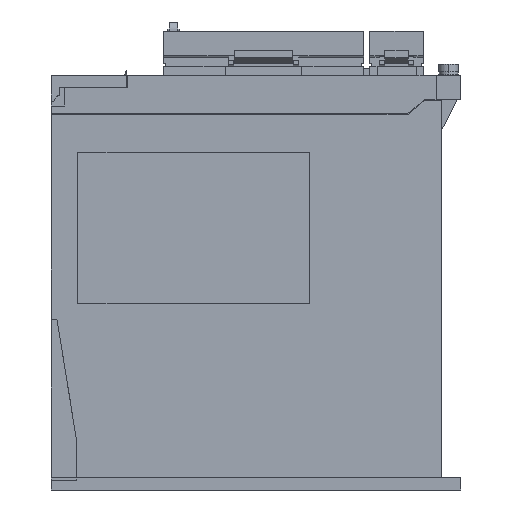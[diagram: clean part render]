
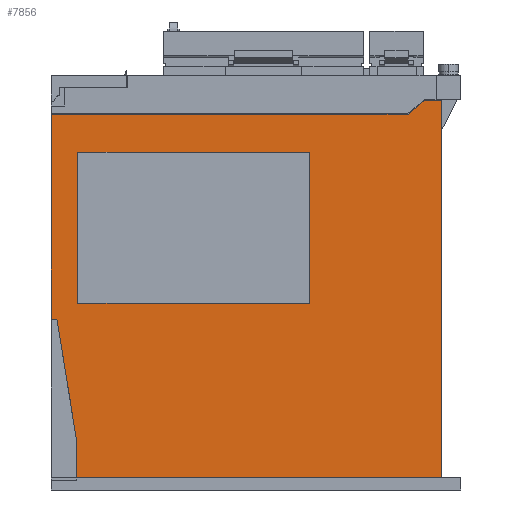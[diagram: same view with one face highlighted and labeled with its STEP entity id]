
A CAD part, left-side view. The second image highlights one B-rep face of the part: STEP entity #7856.
In plain terms, the highlighted planar face has unit normal (-1, 0, 0).
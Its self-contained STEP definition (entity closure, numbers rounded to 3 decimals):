
#5267 = VERTEX_POINT ( 'NONE', #27857 ) ;
#5269 = EDGE_CURVE ( 'NONE', #5267, #5270, #27856, .T. ) ;
#5270 = VERTEX_POINT ( 'NONE', #27852 ) ;
#5509 = VERTEX_POINT ( 'NONE', #28271 ) ;
#5511 = EDGE_CURVE ( 'NONE', #5509, #5512, #28270, .T. ) ;
#5512 = VERTEX_POINT ( 'NONE', #28266 ) ;
#5764 = VERTEX_POINT ( 'NONE', #28668 ) ;
#5796 = EDGE_CURVE ( 'NONE', #5764, #5883, #28746, .T. ) ;
#5883 = VERTEX_POINT ( 'NONE', #28911 ) ;
#7845 = VERTEX_POINT ( 'NONE', #32242 ) ;
#7846 = ORIENTED_EDGE ( 'NONE', *, *, #7847, .F. ) ;
#7847 = EDGE_CURVE ( 'NONE', #7848, #7845, #32241, .T. ) ;
#7848 = VERTEX_POINT ( 'NONE', #32302 ) ;
#7856 = ADVANCED_FACE ( 'NONE', ( #32292, #32291 ), #32290, .F. ) ;
#7857 = EDGE_LOOP ( 'NONE', ( #7858, #7862, #7920, #7923 ) ) ;
#7858 = ORIENTED_EDGE ( 'NONE', *, *, #7859, .F. ) ;
#7859 = EDGE_CURVE ( 'NONE', #7860, #7861, #32284, .T. ) ;
#7860 = VERTEX_POINT ( 'NONE', #32280 ) ;
#7861 = VERTEX_POINT ( 'NONE', #32279 ) ;
#7862 = ORIENTED_EDGE ( 'NONE', *, *, #7919, .F. ) ;
#7863 = VERTEX_POINT ( 'NONE', #32278 ) ;
#7907 = ORIENTED_EDGE ( 'NONE', *, *, #7908, .F. ) ;
#7908 = EDGE_CURVE ( 'NONE', #5764, #7848, #32344, .T. ) ;
#7909 = ORIENTED_EDGE ( 'NONE', *, *, #5796, .T. ) ;
#7910 = ORIENTED_EDGE ( 'NONE', *, *, #7911, .T. ) ;
#7911 = EDGE_CURVE ( 'NONE', #5883, #5512, #32340, .T. ) ;
#7912 = ORIENTED_EDGE ( 'NONE', *, *, #5511, .F. ) ;
#7913 = ORIENTED_EDGE ( 'NONE', *, *, #7914, .T. ) ;
#7914 = EDGE_CURVE ( 'NONE', #5509, #7915, #32397, .T. ) ;
#7915 = VERTEX_POINT ( 'NONE', #32393 ) ;
#7916 = ORIENTED_EDGE ( 'NONE', *, *, #7917, .T. ) ;
#7917 = EDGE_CURVE ( 'NONE', #7915, #5270, #32392, .T. ) ;
#7919 = EDGE_CURVE ( 'NONE', #7863, #7860, #32382, .T. ) ;
#7920 = ORIENTED_EDGE ( 'NONE', *, *, #7921, .F. ) ;
#7921 = EDGE_CURVE ( 'NONE', #7922, #7863, #32378, .T. ) ;
#7922 = VERTEX_POINT ( 'NONE', #32374 ) ;
#7923 = ORIENTED_EDGE ( 'NONE', *, *, #7924, .F. ) ;
#7924 = EDGE_CURVE ( 'NONE', #7861, #7922, #32373, .T. ) ;
#7925 = EDGE_LOOP ( 'NONE', ( #7926, #7927, #7846, #7907, #7909, #7910, #7912, #7913, #7916 ) ) ;
#7926 = ORIENTED_EDGE ( 'NONE', *, *, #5269, .F. ) ;
#7927 = ORIENTED_EDGE ( 'NONE', *, *, #7928, .F. ) ;
#7928 = EDGE_CURVE ( 'NONE', #7845, #5267, #32369, .T. ) ;
#27852 = CARTESIAN_POINT ( 'NONE',  ( -5., -155., 5.2 ) ) ;
#27853 = DIRECTION ( 'NONE',  ( 0., 0., -1. ) ) ;
#27854 = VECTOR ( 'NONE', #27853, 1000. ) ;
#27855 = CARTESIAN_POINT ( 'NONE',  ( -5., -155., 318.924 ) ) ;
#27856 = LINE ( 'NONE', #27855, #27854 ) ;
#27857 = CARTESIAN_POINT ( 'NONE',  ( -5., -155., 159.8 ) ) ;
#28266 = CARTESIAN_POINT ( 'NONE',  ( -5., 2.577, 70. ) ) ;
#28267 = DIRECTION ( 'NONE',  ( 0., 0.159, 0.987 ) ) ;
#28268 = VECTOR ( 'NONE', #28267, 1000. ) ;
#28269 = CARTESIAN_POINT ( 'NONE',  ( -5., -5.5, 20. ) ) ;
#28270 = LINE ( 'NONE', #28269, #28268 ) ;
#28271 = CARTESIAN_POINT ( 'NONE',  ( -5., -5.5, 20. ) ) ;
#28668 = CARTESIAN_POINT ( 'NONE',  ( -5., 5., 154. ) ) ;
#28743 = DIRECTION ( 'NONE',  ( 0., 0., -1. ) ) ;
#28744 = VECTOR ( 'NONE', #28743, 1000. ) ;
#28745 = CARTESIAN_POINT ( 'NONE',  ( -5., 5., 318.924 ) ) ;
#28746 = LINE ( 'NONE', #28745, #28744 ) ;
#28911 = CARTESIAN_POINT ( 'NONE',  ( -5., 5., 70. ) ) ;
#32241 = LINE ( 'NONE', #32305, #32304 ) ;
#32242 = CARTESIAN_POINT ( 'NONE',  ( -5., -148., 159.8 ) ) ;
#32278 = CARTESIAN_POINT ( 'NONE',  ( -5., -6., 138.5 ) ) ;
#32279 = CARTESIAN_POINT ( 'NONE',  ( -5., -101., 76.5 ) ) ;
#32280 = CARTESIAN_POINT ( 'NONE',  ( -5., -6., 76.5 ) ) ;
#32281 = DIRECTION ( 'NONE',  ( 0., -1., 0. ) ) ;
#32282 = VECTOR ( 'NONE', #32281, 1000. ) ;
#32283 = CARTESIAN_POINT ( 'NONE',  ( -5., -6., 76.5 ) ) ;
#32284 = LINE ( 'NONE', #32283, #32282 ) ;
#32286 = DIRECTION ( 'NONE',  ( 0., 1., 0. ) ) ;
#32287 = DIRECTION ( 'NONE',  ( 1., 0., 0. ) ) ;
#32288 = CARTESIAN_POINT ( 'NONE',  ( -5., 5., 318.924 ) ) ;
#32289 = AXIS2_PLACEMENT_3D ( 'NONE', #32288, #32287, #32286 ) ;
#32290 = PLANE ( 'NONE',  #32289 ) ;
#32291 = FACE_OUTER_BOUND ( 'NONE', #7925, .T. ) ;
#32292 = FACE_BOUND ( 'NONE', #7857, .T. ) ;
#32302 = CARTESIAN_POINT ( 'NONE',  ( -5., -141.328, 154. ) ) ;
#32303 = DIRECTION ( 'NONE',  ( 0., -0.755, 0.656 ) ) ;
#32304 = VECTOR ( 'NONE', #32303, 1000. ) ;
#32305 = CARTESIAN_POINT ( 'NONE',  ( -5., -141.328, 154. ) ) ;
#32340 = LINE ( 'NONE', #32400, #32399 ) ;
#32341 = DIRECTION ( 'NONE',  ( 0., -1., 0. ) ) ;
#32342 = VECTOR ( 'NONE', #32341, 1000. ) ;
#32343 = CARTESIAN_POINT ( 'NONE',  ( -5., 13.365, 154. ) ) ;
#32344 = LINE ( 'NONE', #32343, #32342 ) ;
#32369 = LINE ( 'NONE', #32431, #32430 ) ;
#32370 = DIRECTION ( 'NONE',  ( 0., 0., 1. ) ) ;
#32371 = VECTOR ( 'NONE', #32370, 1000. ) ;
#32372 = CARTESIAN_POINT ( 'NONE',  ( -5., -101., 76.5 ) ) ;
#32373 = LINE ( 'NONE', #32372, #32371 ) ;
#32374 = CARTESIAN_POINT ( 'NONE',  ( -5., -101., 138.5 ) ) ;
#32375 = DIRECTION ( 'NONE',  ( 0., 1., 0. ) ) ;
#32376 = VECTOR ( 'NONE', #32375, 1000. ) ;
#32377 = CARTESIAN_POINT ( 'NONE',  ( -5., -6., 138.5 ) ) ;
#32378 = LINE ( 'NONE', #32377, #32376 ) ;
#32379 = DIRECTION ( 'NONE',  ( 0., 0., -1. ) ) ;
#32380 = VECTOR ( 'NONE', #32379, 1000. ) ;
#32381 = CARTESIAN_POINT ( 'NONE',  ( -5., -6., 76.5 ) ) ;
#32382 = LINE ( 'NONE', #32381, #32380 ) ;
#32389 = DIRECTION ( 'NONE',  ( 0., -1., 0. ) ) ;
#32390 = VECTOR ( 'NONE', #32389, 1000. ) ;
#32391 = CARTESIAN_POINT ( 'NONE',  ( -5., -5.5, 5.2 ) ) ;
#32392 = LINE ( 'NONE', #32391, #32390 ) ;
#32393 = CARTESIAN_POINT ( 'NONE',  ( -5., -5.5, 5.2 ) ) ;
#32394 = DIRECTION ( 'NONE',  ( 0., 0., -1. ) ) ;
#32395 = VECTOR ( 'NONE', #32394, 1000. ) ;
#32396 = CARTESIAN_POINT ( 'NONE',  ( -5., -5.5, 20. ) ) ;
#32397 = LINE ( 'NONE', #32396, #32395 ) ;
#32398 = DIRECTION ( 'NONE',  ( 0., -1., 0. ) ) ;
#32399 = VECTOR ( 'NONE', #32398, 1000. ) ;
#32400 = CARTESIAN_POINT ( 'NONE',  ( -5., 5., 70. ) ) ;
#32429 = DIRECTION ( 'NONE',  ( 0., -1., 0. ) ) ;
#32430 = VECTOR ( 'NONE', #32429, 1000. ) ;
#32431 = CARTESIAN_POINT ( 'NONE',  ( -5., -153., 159.8 ) ) ;
